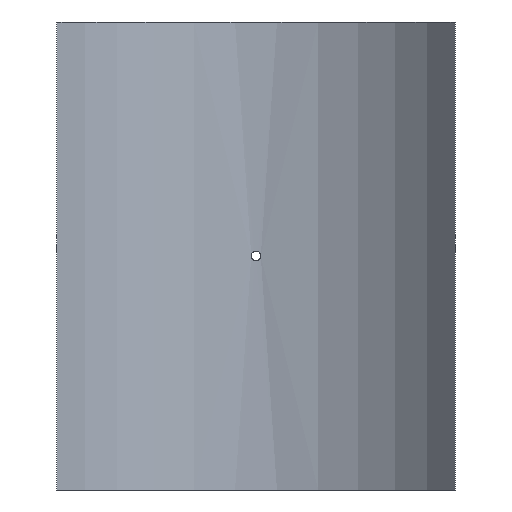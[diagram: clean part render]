
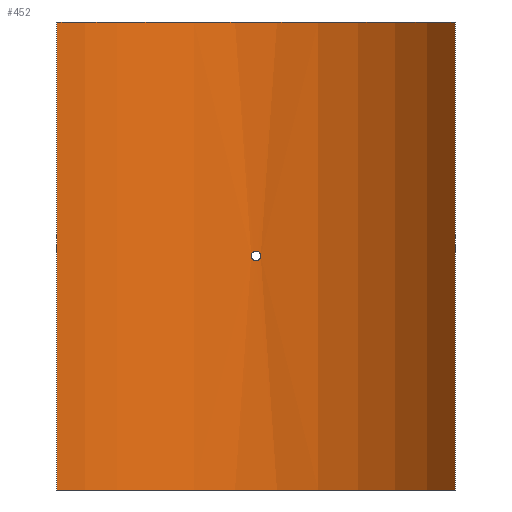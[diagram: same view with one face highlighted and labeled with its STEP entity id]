
A CAD part, front view. The second image highlights one B-rep face of the part: STEP entity #452.
In plain terms, the highlighted cylindrical face has radius 250 mm (diameter 500 mm), a partial arc.
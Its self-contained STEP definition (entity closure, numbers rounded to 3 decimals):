
#19=B_SPLINE_CURVE_WITH_KNOTS('',3,(#788,#789,#790,#791,#792,#793,#794,
#795,#796,#797,#798,#799,#800,#801,#802,#803,#804,#805,#806,#807,#808,#809,
#810,#811,#812,#813,#814,#815,#816,#817,#818,#819,#820,#821),
 .UNSPECIFIED.,.T.,.F.,(4,2,2,2,2,2,2,2,2,2,2,2,2,2,2,2,4),(0.,0.181,
0.362,0.542,0.723,0.904,
1.085,1.266,1.447,1.627,1.808,
1.989,2.17,2.351,2.531,2.712,
2.893),.UNSPECIFIED.);
#43=LINE('',#1065,#62);
#44=LINE('',#1068,#63);
#62=VECTOR('',#661,10.);
#63=VECTOR('',#664,10.);
#76=CYLINDRICAL_SURFACE('',#530,250.);
#88=FACE_BOUND('',#167,.T.);
#127=FACE_OUTER_BOUND('',#166,.T.);
#166=EDGE_LOOP('',(#405,#406,#407,#408));
#167=EDGE_LOOP('',(#409));
#201=CIRCLE('',#529,250.);
#202=CIRCLE('',#531,250.);
#219=VERTEX_POINT('',#786);
#242=VERTEX_POINT('',#1058);
#243=VERTEX_POINT('',#1060);
#244=VERTEX_POINT('',#1064);
#245=VERTEX_POINT('',#1066);
#267=EDGE_CURVE('',#219,#219,#19,.T.);
#299=EDGE_CURVE('',#242,#243,#201,.T.);
#301=EDGE_CURVE('',#244,#242,#43,.T.);
#302=EDGE_CURVE('',#245,#244,#202,.T.);
#303=EDGE_CURVE('',#245,#243,#44,.T.);
#405=ORIENTED_EDGE('',*,*,#301,.F.);
#406=ORIENTED_EDGE('',*,*,#302,.F.);
#407=ORIENTED_EDGE('',*,*,#303,.T.);
#408=ORIENTED_EDGE('',*,*,#299,.F.);
#409=ORIENTED_EDGE('',*,*,#267,.T.);
#452=ADVANCED_FACE('',(#127,#88),#76,.F.);
#529=AXIS2_PLACEMENT_3D('',#1061,#656,#657);
#530=AXIS2_PLACEMENT_3D('',#1063,#659,#660);
#531=AXIS2_PLACEMENT_3D('',#1067,#662,#663);
#656=DIRECTION('center_axis',(0.,0.,1.));
#657=DIRECTION('ref_axis',(0.8,0.6,0.));
#659=DIRECTION('center_axis',(0.,0.,1.));
#660=DIRECTION('ref_axis',(0.8,0.6,0.));
#661=DIRECTION('',(0.,0.,-1.));
#662=DIRECTION('center_axis',(0.,0.,-1.));
#663=DIRECTION('ref_axis',(0.8,0.6,0.));
#664=DIRECTION('',(0.,0.,-1.));
#786=CARTESIAN_POINT('',(4.8,249.954,0.));
#788=CARTESIAN_POINT('Ctrl Pts',(4.8,249.954,0.));
#789=CARTESIAN_POINT('Ctrl Pts',(4.8,249.954,-0.603));
#790=CARTESIAN_POINT('Ctrl Pts',(4.68,249.956,-1.246));
#791=CARTESIAN_POINT('Ctrl Pts',(4.19,249.965,-2.428));
#792=CARTESIAN_POINT('Ctrl Pts',(3.82,249.971,-2.968));
#793=CARTESIAN_POINT('Ctrl Pts',(2.968,249.983,-3.82));
#794=CARTESIAN_POINT('Ctrl Pts',(2.428,249.989,-4.19));
#795=CARTESIAN_POINT('Ctrl Pts',(1.246,249.998,-4.68));
#796=CARTESIAN_POINT('Ctrl Pts',(0.603,250.,-4.8));
#797=CARTESIAN_POINT('Ctrl Pts',(-0.603,250.,-4.8));
#798=CARTESIAN_POINT('Ctrl Pts',(-1.246,249.998,-4.68));
#799=CARTESIAN_POINT('Ctrl Pts',(-2.428,249.989,-4.19));
#800=CARTESIAN_POINT('Ctrl Pts',(-2.968,249.983,-3.82));
#801=CARTESIAN_POINT('Ctrl Pts',(-3.82,249.971,-2.968));
#802=CARTESIAN_POINT('Ctrl Pts',(-4.19,249.965,-2.428));
#803=CARTESIAN_POINT('Ctrl Pts',(-4.68,249.956,-1.246));
#804=CARTESIAN_POINT('Ctrl Pts',(-4.8,249.954,-0.603));
#805=CARTESIAN_POINT('Ctrl Pts',(-4.8,249.954,0.603));
#806=CARTESIAN_POINT('Ctrl Pts',(-4.68,249.956,1.246));
#807=CARTESIAN_POINT('Ctrl Pts',(-4.19,249.965,2.428));
#808=CARTESIAN_POINT('Ctrl Pts',(-3.82,249.971,2.968));
#809=CARTESIAN_POINT('Ctrl Pts',(-2.968,249.983,3.82));
#810=CARTESIAN_POINT('Ctrl Pts',(-2.428,249.989,4.19));
#811=CARTESIAN_POINT('Ctrl Pts',(-1.246,249.998,4.68));
#812=CARTESIAN_POINT('Ctrl Pts',(-0.603,250.,4.8));
#813=CARTESIAN_POINT('Ctrl Pts',(0.603,250.,4.8));
#814=CARTESIAN_POINT('Ctrl Pts',(1.246,249.998,4.68));
#815=CARTESIAN_POINT('Ctrl Pts',(2.428,249.989,4.19));
#816=CARTESIAN_POINT('Ctrl Pts',(2.968,249.983,3.82));
#817=CARTESIAN_POINT('Ctrl Pts',(3.82,249.971,2.968));
#818=CARTESIAN_POINT('Ctrl Pts',(4.19,249.965,2.428));
#819=CARTESIAN_POINT('Ctrl Pts',(4.68,249.956,1.246));
#820=CARTESIAN_POINT('Ctrl Pts',(4.8,249.954,0.603));
#821=CARTESIAN_POINT('Ctrl Pts',(4.8,249.954,0.));
#1058=CARTESIAN_POINT('',(200.,150.,-235.));
#1060=CARTESIAN_POINT('',(-200.,150.,-235.));
#1061=CARTESIAN_POINT('Origin',(0.,0.,
-235.));
#1063=CARTESIAN_POINT('Origin',(0.,0.,
0.));
#1064=CARTESIAN_POINT('',(200.,150.,235.));
#1065=CARTESIAN_POINT('',(200.,150.,0.));
#1066=CARTESIAN_POINT('',(-200.,150.,235.));
#1067=CARTESIAN_POINT('Origin',(0.,0.,
235.));
#1068=CARTESIAN_POINT('',(-200.,150.,0.));
